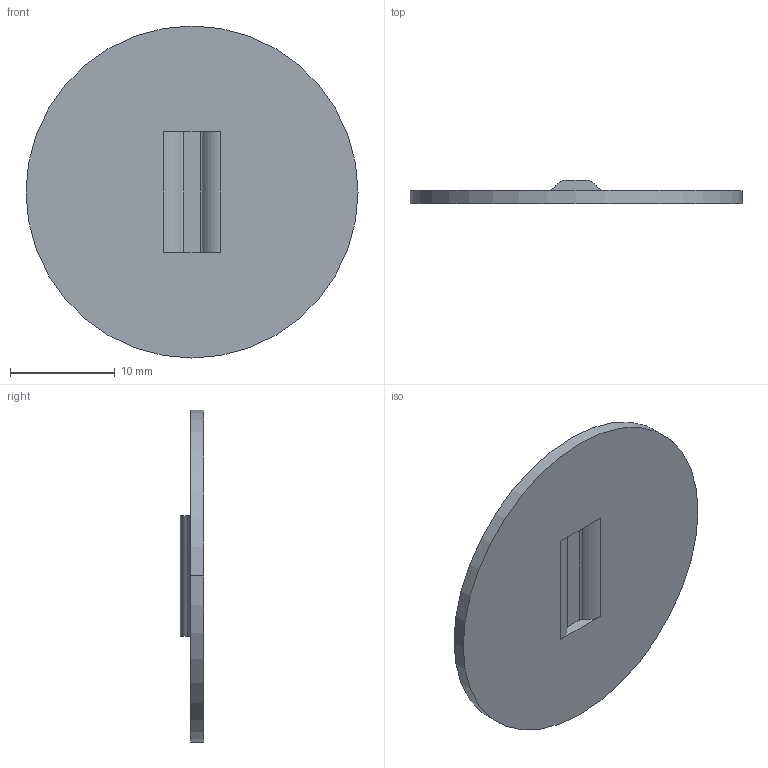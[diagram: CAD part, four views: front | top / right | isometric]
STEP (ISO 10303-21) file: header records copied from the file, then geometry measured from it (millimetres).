
FILE_DESCRIPTION (( 'STEP AP203' ), '1' );
FILE_NAME ('600497-10.STEP', '2024-11-14T18:21:22', ( '' ), ( '' ), 'SwSTEP 2.0', 'SolidWorks 2024', '' );
FILE_SCHEMA (( 'CONFIG_CONTROL_DESIGN' ));
Length unit declared in the file: inch
Products named in the file (1): 600497-10
Bounding box: 31.75 x 2.24 x 31.75 mm (x, y, z)
Volume: 994.8 mm3; surface area: 1736 mm2
Topology: 1 solids, 1 shells, 18 faces, 42 edges, 28 vertices
Faces by surface type: cylinder 10, plane 8
Entity records: 605 total; most frequent: DIRECTION 100, CARTESIAN_POINT 89, ORIENTED_EDGE 84, EDGE_CURVE 42, AXIS2_PLACEMENT_3D 39, VERTEX_POINT 28, LINE 22, VECTOR 22
